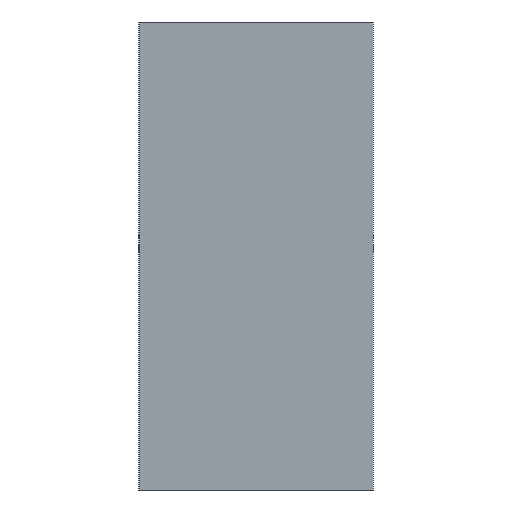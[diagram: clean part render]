
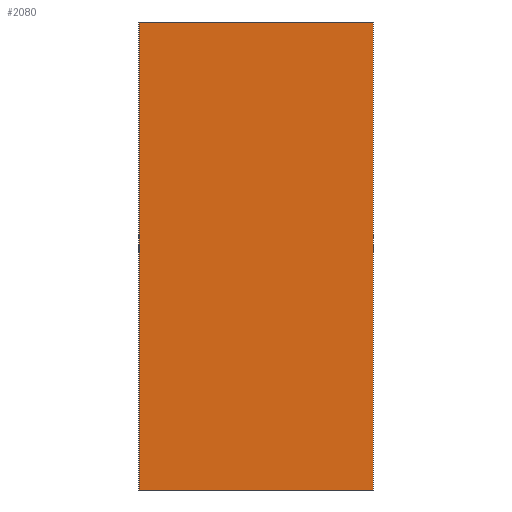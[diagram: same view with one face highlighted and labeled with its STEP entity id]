
A CAD part, left-side view. The second image highlights one B-rep face of the part: STEP entity #2080.
In plain terms, the highlighted planar face has unit normal (-1, 0, 0).
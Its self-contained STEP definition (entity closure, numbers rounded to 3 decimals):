
#171 = EDGE_CURVE ( 'NONE', #2326, #635, #738, .T. ) ;
#197 = ORIENTED_EDGE ( 'NONE', *, *, #171, .F. ) ;
#635 = VERTEX_POINT ( 'NONE', #1190 ) ;
#738 = LINE ( 'NONE', #739, #740 ) ;
#739 = CARTESIAN_POINT ( 'NONE',  ( -75., 0., 50. ) ) ;
#740 = VECTOR ( 'NONE', #741, 1000. ) ;
#741 = DIRECTION ( 'NONE',  ( 0., -1., 0. ) ) ;
#853 = EDGE_CURVE ( 'NONE', #635, #1719, #1263, .T. ) ;
#976 = CARTESIAN_POINT ( 'NONE',  ( -75., 25., 50. ) ) ;
#1096 = LINE ( 'NONE', #1097, #1098 ) ;
#1097 = CARTESIAN_POINT ( 'NONE',  ( -75., 25., 50. ) ) ;
#1098 = VECTOR ( 'NONE', #1099, 1000. ) ;
#1099 = DIRECTION ( 'NONE',  ( 0., 0., -1. ) ) ;
#1190 = CARTESIAN_POINT ( 'NONE',  ( -75., 0., 50. ) ) ;
#1193 = ORIENTED_EDGE ( 'NONE', *, *, #853, .F. ) ;
#1263 = LINE ( 'NONE', #1264, #1265 ) ;
#1264 = CARTESIAN_POINT ( 'NONE',  ( -75., 0., 50. ) ) ;
#1265 = VECTOR ( 'NONE', #1266, 1000. ) ;
#1266 = DIRECTION ( 'NONE',  ( 0., 0., -1. ) ) ;
#1463 = CARTESIAN_POINT ( 'NONE',  ( -75., 25., 0. ) ) ;
#1682 = CARTESIAN_POINT ( 'NONE',  ( -75., 0., 0. ) ) ;
#1719 = VERTEX_POINT ( 'NONE', #1682 ) ;
#1783 = LINE ( 'NONE', #1784, #1785 ) ;
#1784 = CARTESIAN_POINT ( 'NONE',  ( -75., 0., 0. ) ) ;
#1785 = VECTOR ( 'NONE', #1786, 1000. ) ;
#1786 = DIRECTION ( 'NONE',  ( 0., -1., 0. ) ) ;
#1930 = EDGE_CURVE ( 'NONE', #2450, #1719, #1783, .T. ) ;
#1967 = ORIENTED_EDGE ( 'NONE', *, *, #1930, .T. ) ;
#2051 = EDGE_LOOP ( 'NONE', ( #1967, #1193, #197, #2187 ) ) ;
#2080 = ADVANCED_FACE ( 'NONE', ( #3070 ), #3071, .F. ) ;
#2187 = ORIENTED_EDGE ( 'NONE', *, *, #2349, .T. ) ;
#2326 = VERTEX_POINT ( 'NONE', #976 ) ;
#2349 = EDGE_CURVE ( 'NONE', #2326, #2450, #1096, .T. ) ;
#2450 = VERTEX_POINT ( 'NONE', #1463 ) ;
#3070 = FACE_OUTER_BOUND ( 'NONE', #2051, .T. ) ;
#3071 = PLANE ( 'NONE',  #3072 ) ;
#3072 = AXIS2_PLACEMENT_3D ( 'NONE', #3073, #3077, #3078 ) ;
#3073 = CARTESIAN_POINT ( 'NONE',  ( -75., 0., 50. ) ) ;
#3077 = DIRECTION ( 'NONE',  ( 1., 0., 0. ) ) ;
#3078 = DIRECTION ( 'NONE',  ( 0., 0., -1. ) ) ;
